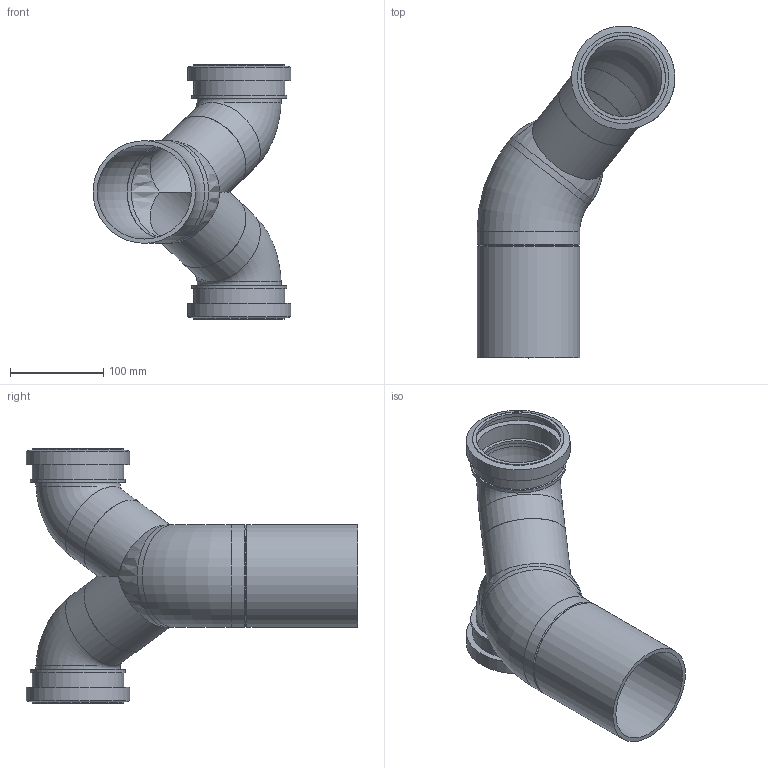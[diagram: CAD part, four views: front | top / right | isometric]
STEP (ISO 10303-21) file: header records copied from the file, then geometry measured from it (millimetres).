
FILE_DESCRIPTION(/* description */ (''),/* implementation_level */ '2;1');
FILE_NAME(/* name */ 'Z:\Geberit\Export\NewStep\367485.stp',/* time_stamp */ '2014-04-02T07:57:20+02:00',/* author */ ('bruh'),/* organization */ (''),/* preprocessor_version */ 'ST-DEVELOPER v15.2',/* originating_system */ 'Autodesk Inventor 2014',/* authorisation */ '');
FILE_SCHEMA (('AUTOMOTIVE_DESIGN { 1 0 10303 214 3 1 1 }'));
Length unit declared in the file: millimetre
Products named in the file (6): 387183; 367496; 886646; 387121; 862535; 367485
Bounding box: 212.17 x 355.64 x 272.6 mm (x, y, z)
Volume: 722011.3 mm3; surface area: 370765.4 mm2
Topology: 6 solids, 6 shells, 68 faces, 126 edges, 77 vertices
Faces by surface type: cylinder 31, plane 23, cone 6, torus 6, sphere 2
Full cylindrical faces by diameter (mm): 82 x2, 83 x2, 83.08 x2, 90 x4, 90.38 x4, 90.7 x2, 98 x2, 98.2 x2, 100 x1, 100.94 x1, 102 x2, 103.7 x2, 110 x3, 111 x2
Entity records: 1097 total; most frequent: DIRECTION 206, CARTESIAN_POINT 148, AXIS2_PLACEMENT_3D 103, ORIENTED_EDGE 94, EDGE_LOOP 88, FACE_BOUND 55, STYLED_ITEM 48, EDGE_CURVE 47
